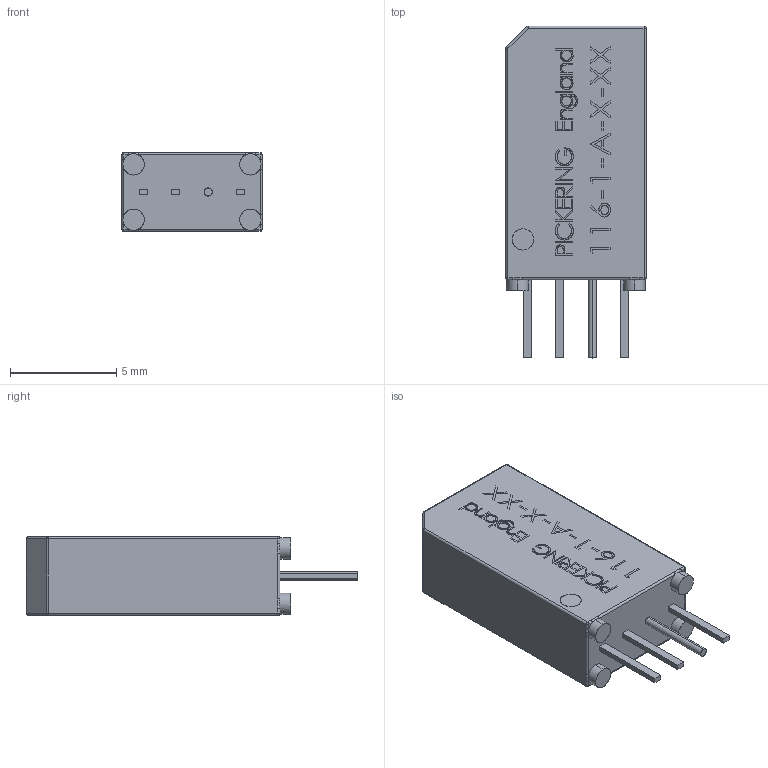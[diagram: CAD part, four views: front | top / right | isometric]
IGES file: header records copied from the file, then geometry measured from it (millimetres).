
Start section: SolidWorks IGES file using analytic representation for surfaces
Global section: file name: C:\Users\alex.leming\Desktop\116-1-A.IGS; native system: SolidWorks 2010; preprocessor: SolidWorks 2010; author: alex.leming; date: 110607.114348; units: millimetre
Bounding box: 6.6 x 15.62 x 3.7 mm (x, y, z)
Surface area: 312.9 mm2 (no closed solid volume)
Topology: 0 solids, 0 shells, 396 faces, 3114 edges, 3104 vertices
Faces by surface type: bspline 351, revolution 45
